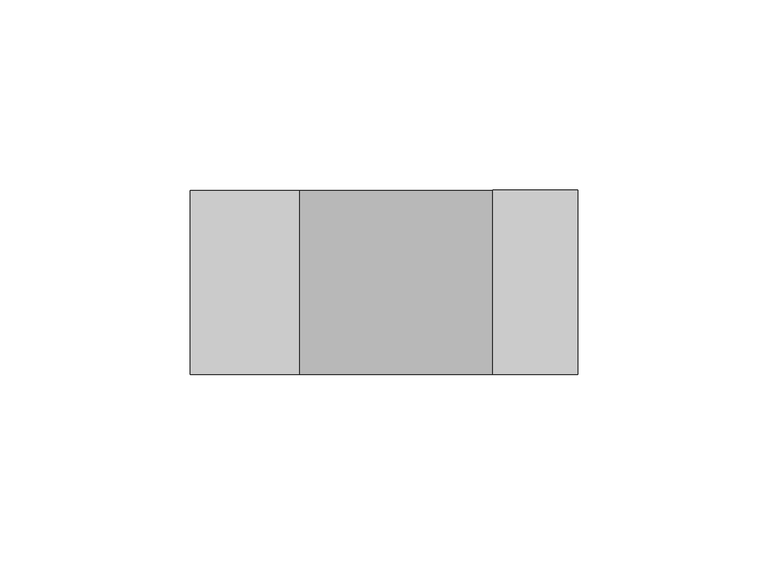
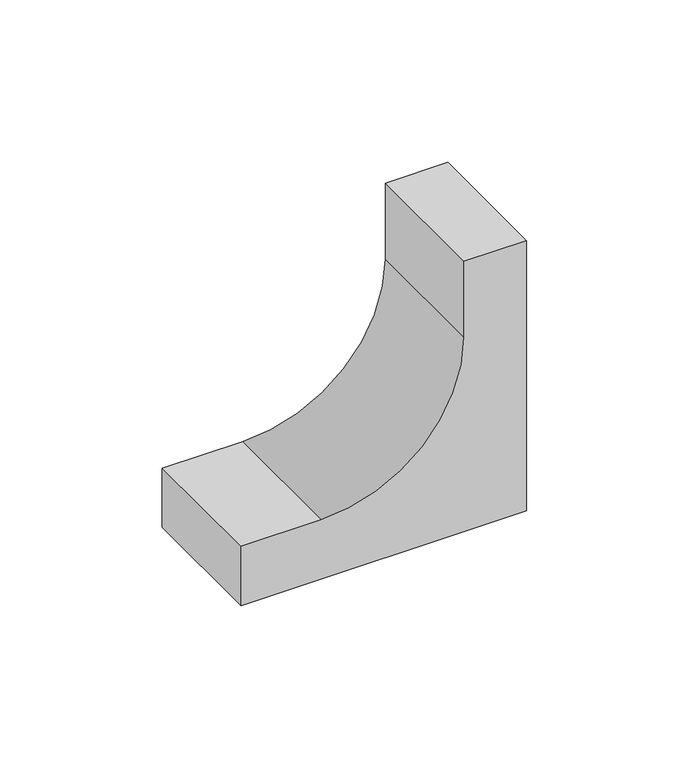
"""IFC4 building model written with IfcOpenShell, lengths in millimetres: proxy geometry, Elbow-2400_Series-Wiremold-Internal : Radiused, Fog White."""

from ifc_helpers import new_model, si_unit, point, frame, frame_2d, origin, place, context, project, spatial, polyline, circle_curve, trimmed, segment, composite_curve, outline, extrude, source, transform, mapped, element, save


def electrical_fixtures_1dfa95d1(model_context):
    return source(origin(), model_context, "Body", "SweptSolid", [
        extrude(outline(composite_curve([segment(polyline([(101.6, 0.0), (101.6, -22.225), (73.025, -22.225)]), True, "CONTINUOUS"), segment(trimmed(circle_curve(frame_2d((73.025, -73.025)), 50.8), [point((73.025, -22.225))], [point((22.225, -73.025))], True, "CARTESIAN"), True, "CONTINUOUS"), segment(polyline([(22.225, -73.025), (22.225, -101.6), (0.0, -101.6), (0.0, 0.0), (101.6, 0.0)]), True, "CONTINUOUS")], self_intersect=False)), frame((0.0, -24.2062, 0.0), z_axis=(0.0, 1.0, 0.0), x_axis=(0.0, 0.0, 1.0)), (0.0, 0.0, 1.0), 48.4124),
    ])


if __name__ == "__main__":
    model = new_model("IFC4")
    model_context = context("Model", 3, world=origin())
    ifc_project = project(units=[si_unit("LENGTHUNIT", "METRE", prefix="MILLI")], contexts=[model_context])
    site = spatial("IfcSite", under=ifc_project)
    building = spatial("IfcBuilding", under=site)
    placement = place(None, origin())
    electrical_fixtures_shape = electrical_fixtures_1dfa95d1(model_context)
    element("IfcBuildingElementProxy", 1, Name="Elbow-2400_Series-Wiremold-Internal : Radiused, Fog White", ObjectType="Elbow-2400_Series-Wiremold-Internal : Radiused, Fog White", at=placement, inside=building, context=model_context, shape_type="MappedRepresentation", body=[
        mapped(electrical_fixtures_shape, transform((0.0, 0.0, 0.0), x_axis=(1.0, 0.0, 0.0), y_axis=(0.0, 1.0, 0.0), z_axis=(0.0, 0.0, 1.0))),
    ])
    save(model, "model.ifc")
